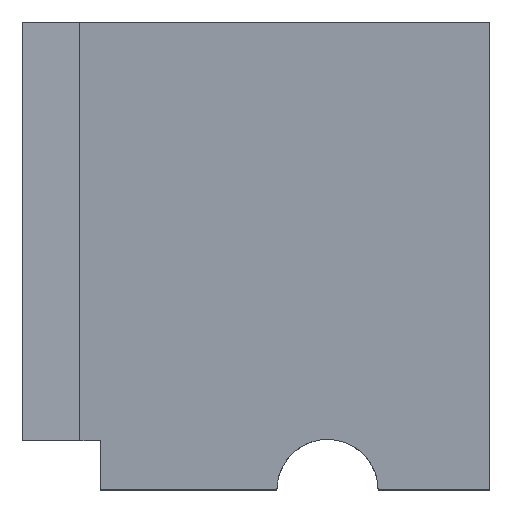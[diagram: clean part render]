
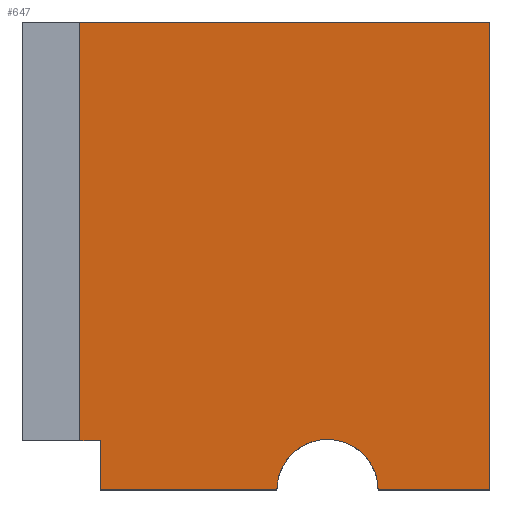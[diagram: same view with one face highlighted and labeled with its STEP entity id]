
A CAD part, top view. The second image highlights one B-rep face of the part: STEP entity #647.
In plain terms, the highlighted planar face has unit normal (0, -0.066, 0.998).
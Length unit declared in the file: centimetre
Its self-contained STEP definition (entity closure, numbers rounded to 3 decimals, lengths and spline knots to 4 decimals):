
#3 = LINE ( 'NONE', #534, #67 ) ;
#4 = ORIENTED_EDGE ( 'NONE', *, *, #855, .F. ) ;
#24 = CARTESIAN_POINT ( 'NONE',  ( 0., 105.2201, 817.3409 ) ) ;
#41 = LINE ( 'NONE', #797, #703 ) ;
#67 = VECTOR ( 'NONE', #365, 100. ) ;
#72 = CARTESIAN_POINT ( 'NONE',  ( 544.6977, 216.3019, 824.6389 ) ) ;
#78 = LINE ( 'NONE', #979, #618 ) ;
#96 = ORIENTED_EDGE ( 'NONE', *, *, #346, .T. ) ;
#178 = CARTESIAN_POINT ( 'NONE',  ( 168.2004, 0., 810.428 ) ) ;
#188 = ORIENTED_EDGE ( 'NONE', *, *, #844, .T. ) ;
#207 = CARTESIAN_POINT ( 'NONE',  ( 544.6977, 0., 810.428 ) ) ;
#217 = CARTESIAN_POINT ( 'NONE',  ( 123.4173, 105.2201, 817.3409 ) ) ;
#223 = LINE ( 'NONE', #520, #765 ) ;
#266 = ORIENTED_EDGE ( 'NONE', *, *, #547, .T. ) ;
#292 = CARTESIAN_POINT ( 'NONE',  ( 123.4173, 1000., 876.1272 ) ) ;
#296 = ORIENTED_EDGE ( 'NONE', *, *, #639, .T. ) ;
#317 = VERTEX_POINT ( 'NONE', #853 ) ;
#318 = DIRECTION ( 'NONE',  ( -1., 0., 0. ) ) ;
#337 = VERTEX_POINT ( 'NONE', #697 ) ;
#346 = EDGE_CURVE ( 'NONE', #337, #317, #548, .T. ) ;
#365 = DIRECTION ( 'NONE',  ( 1., 0., 0. ) ) ;
#366 = PLANE ( 'NONE',  #994 ) ;
#387 = CARTESIAN_POINT ( 'NONE',  ( 760.9996, 216.3019, 824.6389 ) ) ;
#391 = ORIENTED_EDGE ( 'NONE', *, *, #413, .F. ) ;
#403 = CARTESIAN_POINT ( 'NONE',  ( 123.4173, 0., 810.428 ) ) ;
#407 = VECTOR ( 'NONE', #812, 100. ) ;
#411 = VERTEX_POINT ( 'NONE', #178 ) ;
#413 = EDGE_CURVE ( 'NONE', #925, #653, #490, .T. ) ;
#423 = LINE ( 'NONE', #500, #407 ) ;
#452 = CARTESIAN_POINT ( 'NONE',  ( 168.2004, 105.2201, 817.3409 ) ) ;
#473 = EDGE_CURVE ( 'NONE', #591, #773, #41, .T. ) ;
#490 = LINE ( 'NONE', #24, #619 ) ;
#500 = CARTESIAN_POINT ( 'NONE',  ( 1000., 1000., 876.1272 ) ) ;
#520 = CARTESIAN_POINT ( 'NONE',  ( 168.2004, -53.0156, 806.945 ) ) ;
#525 = DIRECTION ( 'NONE',  ( 0., 0.998, 0.066 ) ) ;
#534 = CARTESIAN_POINT ( 'NONE',  ( 123.4173, 0., 810.428 ) ) ;
#539 = DIRECTION ( 'NONE',  ( 0., 0.998, 0.066 ) ) ;
#547 = EDGE_CURVE ( 'NONE', #317, #773, #423, .T. ) ;
#548 = LINE ( 'NONE', #403, #595 ) ;
#549 =( BOUNDED_CURVE ( )  B_SPLINE_CURVE ( 3, ( #751, #72, #387, #829 ),
 .UNSPECIFIED., .F., .F. ) 
 B_SPLINE_CURVE_WITH_KNOTS ( ( 4, 4 ),
 ( 1.5708, 4.7124 ),
 .UNSPECIFIED. ) 
 CURVE ( )  GEOMETRIC_REPRESENTATION_ITEM ( )  RATIONAL_B_SPLINE_CURVE ( ( 1., 0.333, 0.333, 1. ) ) 
 REPRESENTATION_ITEM ( '' )  );
#563 = ORIENTED_EDGE ( 'NONE', *, *, #861, .F. ) ;
#591 = VERTEX_POINT ( 'NONE', #817 ) ;
#595 = VECTOR ( 'NONE', #857, 100. ) ;
#608 = DIRECTION ( 'NONE',  ( 0., 0.066, -0.998 ) ) ;
#612 = FACE_OUTER_BOUND ( 'NONE', #876, .T. ) ;
#618 = VECTOR ( 'NONE', #825, 100. ) ;
#619 = VECTOR ( 'NONE', #318, 100. ) ;
#639 = EDGE_CURVE ( 'NONE', #874, #337, #549, .T. ) ;
#647 = ADVANCED_FACE ( 'NONE', ( #612 ), #366, .F. ) ;
#653 = VERTEX_POINT ( 'NONE', #217 ) ;
#664 = ORIENTED_EDGE ( 'NONE', *, *, #473, .F. ) ;
#697 = CARTESIAN_POINT ( 'NONE',  ( 760.9996, 0., 810.428 ) ) ;
#703 = VECTOR ( 'NONE', #742, 100. ) ;
#742 = DIRECTION ( 'NONE',  ( 1., 0., 0. ) ) ;
#751 = CARTESIAN_POINT ( 'NONE',  ( 544.6977, 0., 810.428 ) ) ;
#765 = VECTOR ( 'NONE', #539, 100. ) ;
#773 = VERTEX_POINT ( 'NONE', #809 ) ;
#797 = CARTESIAN_POINT ( 'NONE',  ( 123.4173, 1000., 876.1272 ) ) ;
#809 = CARTESIAN_POINT ( 'NONE',  ( 1000., 1000., 876.1272 ) ) ;
#812 = DIRECTION ( 'NONE',  ( 0., 0.998, 0.066 ) ) ;
#817 = CARTESIAN_POINT ( 'NONE',  ( 123.4173, 1000., 876.1272 ) ) ;
#825 = DIRECTION ( 'NONE',  ( 0., 0.998, 0.066 ) ) ;
#829 = CARTESIAN_POINT ( 'NONE',  ( 760.9996, 0., 810.428 ) ) ;
#844 = EDGE_CURVE ( 'NONE', #411, #874, #3, .T. ) ;
#853 = CARTESIAN_POINT ( 'NONE',  ( 1000., 0., 810.428 ) ) ;
#855 = EDGE_CURVE ( 'NONE', #653, #591, #78, .T. ) ;
#857 = DIRECTION ( 'NONE',  ( 1., 0., 0. ) ) ;
#861 = EDGE_CURVE ( 'NONE', #411, #925, #223, .T. ) ;
#874 = VERTEX_POINT ( 'NONE', #207 ) ;
#876 = EDGE_LOOP ( 'NONE', ( #188, #296, #96, #266, #664, #4, #391, #563 ) ) ;
#925 = VERTEX_POINT ( 'NONE', #452 ) ;
#979 = CARTESIAN_POINT ( 'NONE',  ( 123.4173, 1000., 876.1272 ) ) ;
#994 = AXIS2_PLACEMENT_3D ( 'NONE', #292, #608, #525 ) ;
